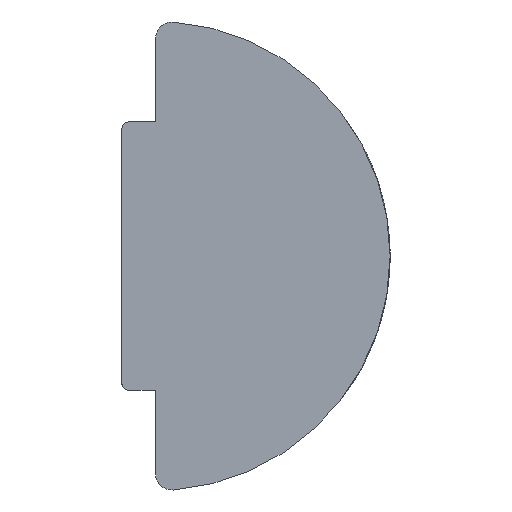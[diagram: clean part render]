
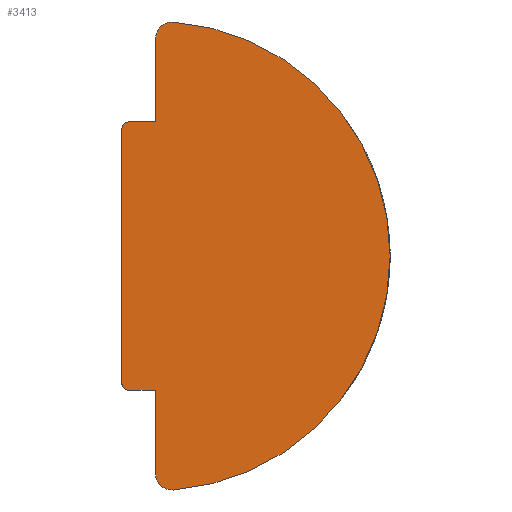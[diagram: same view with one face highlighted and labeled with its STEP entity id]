
A CAD part, left-side view. The second image highlights one B-rep face of the part: STEP entity #3413.
In plain terms, the highlighted planar face has unit normal (-1, 0, 0).
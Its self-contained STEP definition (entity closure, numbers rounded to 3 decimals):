
#27 = AXIS2_PLACEMENT_3D ( 'NONE', #395, #3045, #2661 ) ;
#62 = CARTESIAN_POINT ( 'NONE',  ( -10., 0., -4. ) ) ;
#87 = LINE ( 'NONE', #3516, #1089 ) ;
#108 = CARTESIAN_POINT ( 'NONE',  ( -10., -0.538, -6.979 ) ) ;
#144 = CARTESIAN_POINT ( 'NONE',  ( -10., 1., -3.8 ) ) ;
#216 = LINE ( 'NONE', #3636, #621 ) ;
#262 = ORIENTED_EDGE ( 'NONE', *, *, #3215, .F. ) ;
#311 = DIRECTION ( 'NONE',  ( 0., 0., 1. ) ) ;
#319 = AXIS2_PLACEMENT_3D ( 'NONE', #2504, #2114, #1724 ) ;
#395 = CARTESIAN_POINT ( 'NONE',  ( -10., 0., 0. ) ) ;
#404 = VERTEX_POINT ( 'NONE', #1930 ) ;
#412 = EDGE_CURVE ( 'NONE', #3235, #1357, #1528, .T. ) ;
#450 = CARTESIAN_POINT ( 'NONE',  ( -10., 0.8, -3.8 ) ) ;
#523 = AXIS2_PLACEMENT_3D ( 'NONE', #607, #2481, #2093 ) ;
#560 = CARTESIAN_POINT ( 'NONE',  ( -10., 1., 3.8 ) ) ;
#572 = VECTOR ( 'NONE', #3183, 1000. ) ;
#583 = CIRCLE ( 'NONE', #3407, 0.5 ) ;
#607 = CARTESIAN_POINT ( 'NONE',  ( -10., -0.5, -6.481 ) ) ;
#616 = VERTEX_POINT ( 'NONE', #3709 ) ;
#621 = VECTOR ( 'NONE', #3247, 1000. ) ;
#645 = AXIS2_PLACEMENT_3D ( 'NONE', #3691, #3300, #2918 ) ;
#709 = CARTESIAN_POINT ( 'NONE',  ( -10., 1., 4. ) ) ;
#748 = DIRECTION ( 'NONE',  ( 0., 0., 1. ) ) ;
#1007 = VERTEX_POINT ( 'NONE', #2854 ) ;
#1054 = VERTEX_POINT ( 'NONE', #108 ) ;
#1089 = VECTOR ( 'NONE', #3126, 1000. ) ;
#1103 = LINE ( 'NONE', #709, #2408 ) ;
#1115 = EDGE_CURVE ( 'NONE', #2237, #2327, #1103, .T. ) ;
#1116 = FACE_OUTER_BOUND ( 'NONE', #2718, .T. ) ;
#1141 = CARTESIAN_POINT ( 'NONE',  ( -10., 0., -4. ) ) ;
#1243 = CARTESIAN_POINT ( 'NONE',  ( -10., 0.8, -4. ) ) ;
#1357 = VERTEX_POINT ( 'NONE', #62 ) ;
#1362 = EDGE_CURVE ( 'NONE', #2237, #2693, #3210, .T. ) ;
#1483 = CARTESIAN_POINT ( 'NONE',  ( -10., 0., -6.481 ) ) ;
#1528 = LINE ( 'NONE', #1141, #2366 ) ;
#1547 = EDGE_CURVE ( 'NONE', #2076, #2327, #2065, .T. ) ;
#1583 = AXIS2_PLACEMENT_3D ( 'NONE', #3429, #3035, #2652 ) ;
#1712 = VERTEX_POINT ( 'NONE', #2263 ) ;
#1724 = DIRECTION ( 'NONE',  ( 0., 0., -1. ) ) ;
#1816 = LINE ( 'NONE', #3573, #572 ) ;
#1862 = ORIENTED_EDGE ( 'NONE', *, *, #1991, .F. ) ;
#1930 = CARTESIAN_POINT ( 'NONE',  ( -10., 0., 6.481 ) ) ;
#1943 = EDGE_CURVE ( 'NONE', #616, #404, #583, .T. ) ;
#1991 = EDGE_CURVE ( 'NONE', #1712, #404, #1816, .T. ) ;
#2065 = CIRCLE ( 'NONE', #645, 0.2 ) ;
#2076 = VERTEX_POINT ( 'NONE', #3487 ) ;
#2093 = DIRECTION ( 'NONE',  ( 0., 0., -1. ) ) ;
#2114 = DIRECTION ( 'NONE',  ( 1., 0., 0. ) ) ;
#2120 = ORIENTED_EDGE ( 'NONE', *, *, #1115, .F. ) ;
#2207 = DIRECTION ( 'NONE',  ( 0., 0., -1. ) ) ;
#2237 = VERTEX_POINT ( 'NONE', #144 ) ;
#2263 = CARTESIAN_POINT ( 'NONE',  ( -10., 0., 4. ) ) ;
#2327 = VERTEX_POINT ( 'NONE', #560 ) ;
#2362 = CIRCLE ( 'NONE', #523, 0.5 ) ;
#2366 = VECTOR ( 'NONE', #748, 1000. ) ;
#2408 = VECTOR ( 'NONE', #311, 1000. ) ;
#2481 = DIRECTION ( 'NONE',  ( -1., 0., 0. ) ) ;
#2504 = CARTESIAN_POINT ( 'NONE',  ( -10., 0., 0. ) ) ;
#2548 = EDGE_CURVE ( 'NONE', #2076, #1712, #87, .T. ) ;
#2556 = ORIENTED_EDGE ( 'NONE', *, *, #412, .F. ) ;
#2597 = DIRECTION ( 'NONE',  ( -1., 0., 0. ) ) ;
#2652 = DIRECTION ( 'NONE',  ( 0., 0., -1. ) ) ;
#2661 = DIRECTION ( 'NONE',  ( 0., 0., -1. ) ) ;
#2693 = VERTEX_POINT ( 'NONE', #1243 ) ;
#2718 = EDGE_LOOP ( 'NONE', ( #3617, #3495, #2120, #3558, #3370, #2556, #3804, #262, #2875, #3050, #1862 ) ) ;
#2854 = CARTESIAN_POINT ( 'NONE',  ( -10., -0.538, 6.979 ) ) ;
#2861 = EDGE_CURVE ( 'NONE', #1007, #616, #3615, .T. ) ;
#2875 = ORIENTED_EDGE ( 'NONE', *, *, #2861, .T. ) ;
#2887 = PLANE ( 'NONE',  #319 ) ;
#2918 = DIRECTION ( 'NONE',  ( 0., 0., -1. ) ) ;
#2977 = CARTESIAN_POINT ( 'NONE',  ( -10., -0.5, 6.481 ) ) ;
#3035 = DIRECTION ( 'NONE',  ( -1., 0., 0. ) ) ;
#3040 = CIRCLE ( 'NONE', #27, 7. ) ;
#3045 = DIRECTION ( 'NONE',  ( 1., 0., 0. ) ) ;
#3050 = ORIENTED_EDGE ( 'NONE', *, *, #1943, .T. ) ;
#3099 = DIRECTION ( 'NONE',  ( 0., 0., -1. ) ) ;
#3126 = DIRECTION ( 'NONE',  ( 0., -1., 0. ) ) ;
#3183 = DIRECTION ( 'NONE',  ( 0., 0., 1. ) ) ;
#3210 = CIRCLE ( 'NONE', #3569, 0.2 ) ;
#3215 = EDGE_CURVE ( 'NONE', #1007, #1054, #3040, .T. ) ;
#3235 = VERTEX_POINT ( 'NONE', #1483 ) ;
#3247 = DIRECTION ( 'NONE',  ( 0., 1., 0. ) ) ;
#3300 = DIRECTION ( 'NONE',  ( -1., 0., 0. ) ) ;
#3313 = EDGE_CURVE ( 'NONE', #1357, #2693, #216, .T. ) ;
#3360 = EDGE_CURVE ( 'NONE', #3235, #1054, #2362, .T. ) ;
#3370 = ORIENTED_EDGE ( 'NONE', *, *, #3313, .F. ) ;
#3407 = AXIS2_PLACEMENT_3D ( 'NONE', #2977, #2597, #2207 ) ;
#3413 = ADVANCED_FACE ( 'NONE', ( #1116 ), #2887, .F. ) ;
#3429 = CARTESIAN_POINT ( 'NONE',  ( -10., -0.5, 6.481 ) ) ;
#3487 = CARTESIAN_POINT ( 'NONE',  ( -10., 0.8, 4. ) ) ;
#3494 = DIRECTION ( 'NONE',  ( -1., 0., 0. ) ) ;
#3495 = ORIENTED_EDGE ( 'NONE', *, *, #1547, .T. ) ;
#3516 = CARTESIAN_POINT ( 'NONE',  ( -10., 0., 4. ) ) ;
#3558 = ORIENTED_EDGE ( 'NONE', *, *, #1362, .T. ) ;
#3569 = AXIS2_PLACEMENT_3D ( 'NONE', #450, #3494, #3099 ) ;
#3573 = CARTESIAN_POINT ( 'NONE',  ( -10., 0., 7. ) ) ;
#3615 = CIRCLE ( 'NONE', #1583, 0.5 ) ;
#3617 = ORIENTED_EDGE ( 'NONE', *, *, #2548, .F. ) ;
#3636 = CARTESIAN_POINT ( 'NONE',  ( -10., 0., -4. ) ) ;
#3691 = CARTESIAN_POINT ( 'NONE',  ( -10., 0.8, 3.8 ) ) ;
#3709 = CARTESIAN_POINT ( 'NONE',  ( -10., -0.5, 6.981 ) ) ;
#3804 = ORIENTED_EDGE ( 'NONE', *, *, #3360, .T. ) ;
